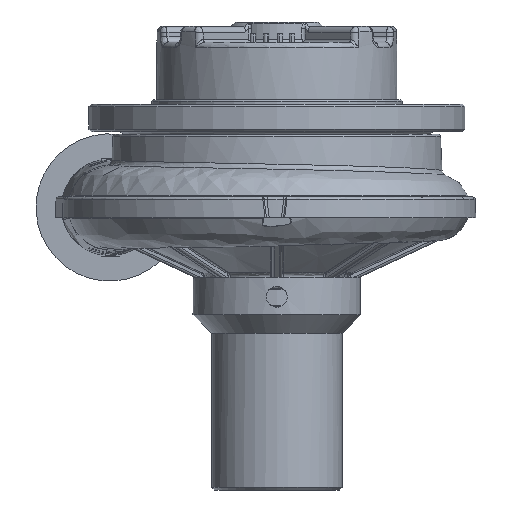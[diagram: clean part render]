
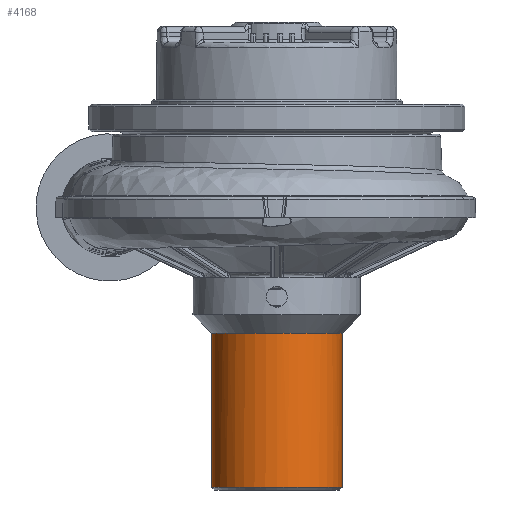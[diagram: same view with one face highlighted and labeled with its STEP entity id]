
A CAD part, front view. The second image highlights one B-rep face of the part: STEP entity #4168.
In plain terms, the highlighted cylindrical face has radius 12.5 mm (diameter 25 mm), a full revolution.
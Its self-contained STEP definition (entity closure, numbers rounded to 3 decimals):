
#258=FACE_BOUND('',#6773,.T.);
#259=FACE_BOUND('',#6774,.T.);
#659=CYLINDRICAL_SURFACE('',#20748,12.5);
#4168=ADVANCED_FACE('',(#258,#259),#659,.T.);
#6773=EDGE_LOOP('',(#13173));
#6774=EDGE_LOOP('',(#13174));
#7383=CIRCLE('',#20747,12.5);
#13173=ORIENTED_EDGE('',*,*,#17873,.T.);
#13174=ORIENTED_EDGE('',*,*,#17872,.T.);
#14983=VERTEX_POINT('',#48176);
#14984=VERTEX_POINT('',#48179);
#17872=EDGE_CURVE('',#14983,#14983,#19278,.T.);
#17873=EDGE_CURVE('',#14984,#14984,#7383,.T.);
#19278=B_SPLINE_CURVE_WITH_KNOTS('',3,(#48158,#48159,#48160,#48161,#48162,
#48163,#48164,#48165,#48166,#48167,#48168,#48169,#48170,#48171,#48172,#48173,
#48174,#48175),.UNSPECIFIED.,.T.,.F.,(2,2,2,2,2,2,2,2,2,2,2),(-0.125,0.,
0.125,0.25,0.375,0.5,0.625,0.75,0.875,1.,1.125),.UNSPECIFIED.);
#20747=AXIS2_PLACEMENT_3D('',#48178,#24551,#24552);
#20748=AXIS2_PLACEMENT_3D('',#48180,#24553,#24554);
#24551=DIRECTION('',(0.,0.,1.));
#24552=DIRECTION('',(0.,1.,0.));
#24553=DIRECTION('',(0.,0.,-1.));
#24554=DIRECTION('',(0.,-1.,0.));
#48158=CARTESIAN_POINT('',(3.27,-12.501,-25.6));
#48159=CARTESIAN_POINT('',(-3.275,-12.499,-25.6));
#48160=CARTESIAN_POINT('',(-6.527,-11.152,-25.6));
#48161=CARTESIAN_POINT('',(-11.154,-6.523,-25.6));
#48162=CARTESIAN_POINT('',(-12.501,-3.27,-25.6));
#48163=CARTESIAN_POINT('',(-12.499,3.275,-25.6));
#48164=CARTESIAN_POINT('',(-11.152,6.527,-25.6));
#48165=CARTESIAN_POINT('',(-6.523,11.154,-25.6));
#48166=CARTESIAN_POINT('',(-3.27,12.501,-25.6));
#48167=CARTESIAN_POINT('',(3.275,12.499,-25.6));
#48168=CARTESIAN_POINT('',(6.527,11.152,-25.6));
#48169=CARTESIAN_POINT('',(11.154,6.523,-25.6));
#48170=CARTESIAN_POINT('',(12.501,3.27,-25.6));
#48171=CARTESIAN_POINT('',(12.499,-3.275,-25.6));
#48172=CARTESIAN_POINT('',(11.152,-6.527,-25.6));
#48173=CARTESIAN_POINT('',(6.523,-11.154,-25.6));
#48174=CARTESIAN_POINT('',(3.27,-12.501,-25.6));
#48175=CARTESIAN_POINT('',(-3.275,-12.499,-25.6));
#48176=CARTESIAN_POINT('',(-0.002,-12.5,-25.6));
#48178=CARTESIAN_POINT('',(0.,0.,
-55.1));
#48179=CARTESIAN_POINT('',(0.002,12.5,-55.1));
#48180=CARTESIAN_POINT('',(0.,0.,
-22.6));
